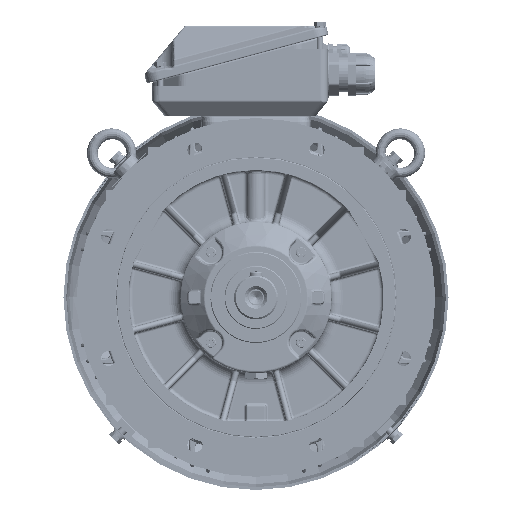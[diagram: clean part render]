
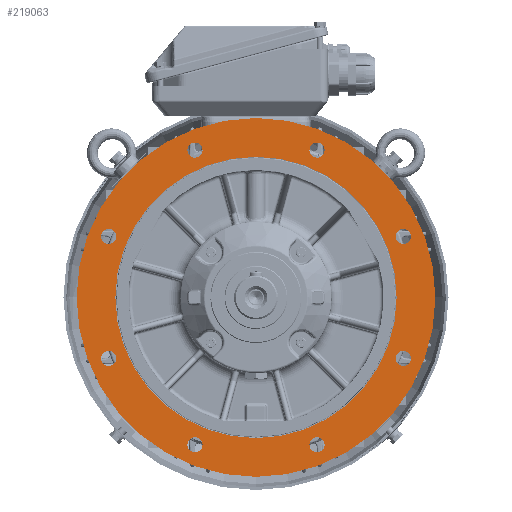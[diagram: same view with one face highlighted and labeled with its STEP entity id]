
A CAD part, front view. The second image highlights one B-rep face of the part: STEP entity #219063.
In plain terms, the highlighted planar face has unit normal (0, -1, 0).
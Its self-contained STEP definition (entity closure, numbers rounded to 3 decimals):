
#33116=PLANE('',#230081);
#39241=CIRCLE('',#229422,224.995);
#39604=CIRCLE('',#230082,9.5);
#39605=CIRCLE('',#230083,9.5);
#39606=CIRCLE('',#230084,9.5);
#39607=CIRCLE('',#230085,9.5);
#39608=CIRCLE('',#230086,9.5);
#39609=CIRCLE('',#230087,9.5);
#39610=CIRCLE('',#230088,9.5);
#39611=CIRCLE('',#230089,9.5);
#39612=CIRCLE('',#230090,176.395);
#52980=ORIENTED_EDGE('',*,*,#94822,.F.);
#52981=ORIENTED_EDGE('',*,*,#94823,.F.);
#52982=ORIENTED_EDGE('',*,*,#94824,.F.);
#52983=ORIENTED_EDGE('',*,*,#94825,.F.);
#52984=ORIENTED_EDGE('',*,*,#94826,.F.);
#52985=ORIENTED_EDGE('',*,*,#94827,.F.);
#52986=ORIENTED_EDGE('',*,*,#94828,.F.);
#52987=ORIENTED_EDGE('',*,*,#94829,.F.);
#52988=ORIENTED_EDGE('',*,*,#94830,.F.);
#52989=ORIENTED_EDGE('',*,*,#94127,.F.);
#94127=EDGE_CURVE('',#115776,#115776,#39241,.T.);
#94822=EDGE_CURVE('',#116071,#116071,#39604,.T.);
#94823=EDGE_CURVE('',#116072,#116072,#39605,.T.);
#94824=EDGE_CURVE('',#116073,#116073,#39606,.T.);
#94825=EDGE_CURVE('',#116074,#116074,#39607,.T.);
#94826=EDGE_CURVE('',#116075,#116075,#39608,.T.);
#94827=EDGE_CURVE('',#116076,#116076,#39609,.T.);
#94828=EDGE_CURVE('',#116077,#116077,#39610,.T.);
#94829=EDGE_CURVE('',#116078,#116078,#39611,.T.);
#94830=EDGE_CURVE('',#116079,#116079,#39612,.T.);
#115776=VERTEX_POINT('',#308739);
#116071=VERTEX_POINT('',#313049);
#116072=VERTEX_POINT('',#313051);
#116073=VERTEX_POINT('',#313053);
#116074=VERTEX_POINT('',#313055);
#116075=VERTEX_POINT('',#313057);
#116076=VERTEX_POINT('',#313059);
#116077=VERTEX_POINT('',#313061);
#116078=VERTEX_POINT('',#313063);
#116079=VERTEX_POINT('',#313065);
#132311=EDGE_LOOP('',(#52980));
#132312=EDGE_LOOP('',(#52981));
#132313=EDGE_LOOP('',(#52982));
#132314=EDGE_LOOP('',(#52983));
#132315=EDGE_LOOP('',(#52984));
#132316=EDGE_LOOP('',(#52985));
#132317=EDGE_LOOP('',(#52986));
#132318=EDGE_LOOP('',(#52987));
#132319=EDGE_LOOP('',(#52988));
#132320=EDGE_LOOP('',(#52989));
#143661=FACE_BOUND('',#132311,.T.);
#143662=FACE_BOUND('',#132312,.T.);
#143663=FACE_BOUND('',#132313,.T.);
#143664=FACE_BOUND('',#132314,.T.);
#143665=FACE_BOUND('',#132315,.T.);
#143666=FACE_BOUND('',#132316,.T.);
#143667=FACE_BOUND('',#132317,.T.);
#143668=FACE_BOUND('',#132318,.T.);
#143669=FACE_BOUND('',#132319,.T.);
#143670=FACE_BOUND('',#132320,.T.);
#219063=ADVANCED_FACE('',(#143661,#143662,#143663,#143664,#143665,#143666,
#143667,#143668,#143669,#143670),#33116,.F.);
#229422=AXIS2_PLACEMENT_3D('',#308738,#248845,#248846);
#230081=AXIS2_PLACEMENT_3D('',#313047,#250347,#250348);
#230082=AXIS2_PLACEMENT_3D('',#313048,#250349,#250350);
#230083=AXIS2_PLACEMENT_3D('',#313050,#250351,#250352);
#230084=AXIS2_PLACEMENT_3D('',#313052,#250353,#250354);
#230085=AXIS2_PLACEMENT_3D('',#313054,#250355,#250356);
#230086=AXIS2_PLACEMENT_3D('',#313056,#250357,#250358);
#230087=AXIS2_PLACEMENT_3D('',#313058,#250359,#250360);
#230088=AXIS2_PLACEMENT_3D('',#313060,#250361,#250362);
#230089=AXIS2_PLACEMENT_3D('',#313062,#250363,#250364);
#230090=AXIS2_PLACEMENT_3D('',#313064,#250365,#250366);
#248845=DIRECTION('',(0.,1.,0.));
#248846=DIRECTION('',(-1.,0.,0.));
#250347=DIRECTION('',(0.,1.,0.));
#250348=DIRECTION('',(-1.,0.,0.));
#250349=DIRECTION('',(0.,-1.,0.));
#250350=DIRECTION('',(1.,0.,0.));
#250351=DIRECTION('',(0.,-1.,0.));
#250352=DIRECTION('',(1.,0.,0.));
#250353=DIRECTION('',(0.,-1.,0.));
#250354=DIRECTION('',(1.,0.,0.));
#250355=DIRECTION('',(0.,-1.,0.));
#250356=DIRECTION('',(1.,0.,0.));
#250357=DIRECTION('',(0.,-1.,0.));
#250358=DIRECTION('',(1.,0.,0.));
#250359=DIRECTION('',(0.,-1.,0.));
#250360=DIRECTION('',(1.,0.,0.));
#250361=DIRECTION('',(0.,-1.,0.));
#250362=DIRECTION('',(1.,0.,0.));
#250363=DIRECTION('',(0.,-1.,0.));
#250364=DIRECTION('',(1.,0.,0.));
#250365=DIRECTION('',(0.,-1.,0.));
#250366=DIRECTION('',(1.,0.,0.));
#308738=CARTESIAN_POINT('',(0.,-84.5,0.));
#308739=CARTESIAN_POINT('',(-224.995,-84.5,0.));
#313047=CARTESIAN_POINT('',(-176.395,-84.5,0.));
#313048=CARTESIAN_POINT('',(184.776,-84.5,-76.537));
#313049=CARTESIAN_POINT('',(194.276,-84.5,-76.537));
#313050=CARTESIAN_POINT('',(76.537,-84.5,-184.776));
#313051=CARTESIAN_POINT('',(86.037,-84.5,-184.776));
#313052=CARTESIAN_POINT('',(-76.537,-84.5,-184.776));
#313053=CARTESIAN_POINT('',(-67.037,-84.5,-184.776));
#313054=CARTESIAN_POINT('',(-184.776,-84.5,-76.537));
#313055=CARTESIAN_POINT('',(-175.276,-84.5,-76.537));
#313056=CARTESIAN_POINT('',(-184.776,-84.5,76.537));
#313057=CARTESIAN_POINT('',(-175.276,-84.5,76.537));
#313058=CARTESIAN_POINT('',(-76.537,-84.5,184.776));
#313059=CARTESIAN_POINT('',(-67.037,-84.5,184.776));
#313060=CARTESIAN_POINT('',(76.537,-84.5,184.776));
#313061=CARTESIAN_POINT('',(86.037,-84.5,184.776));
#313062=CARTESIAN_POINT('',(184.776,-84.5,76.537));
#313063=CARTESIAN_POINT('',(194.276,-84.5,76.537));
#313064=CARTESIAN_POINT('',(0.,-84.5,0.));
#313065=CARTESIAN_POINT('',(176.395,-84.5,0.));
